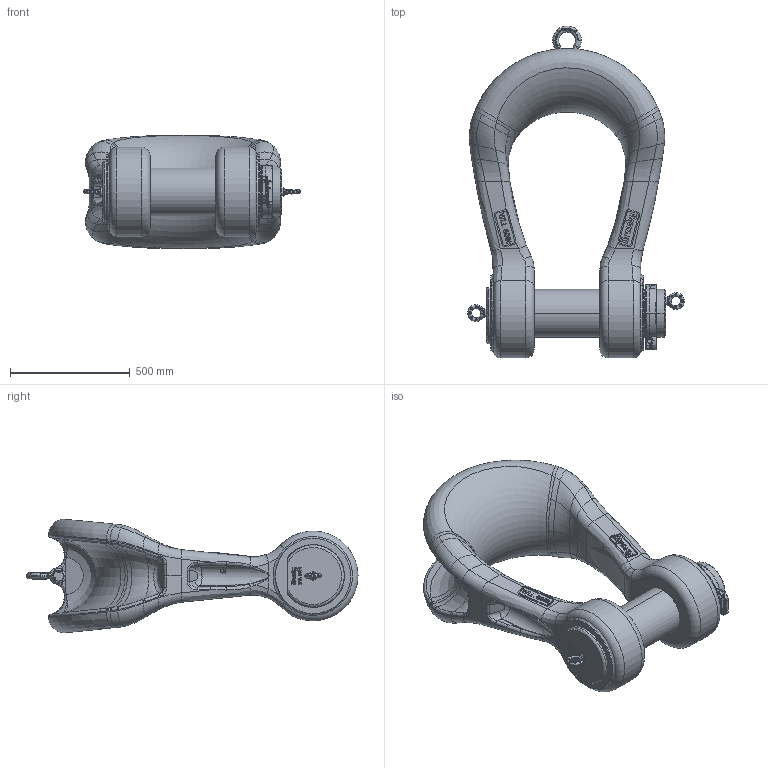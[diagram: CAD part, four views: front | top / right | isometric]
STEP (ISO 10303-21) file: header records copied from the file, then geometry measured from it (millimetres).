
FILE_DESCRIPTION((''),'2;1');
FILE_NAME('1021355_ASM','2024-09-04T11:40:17',('justin.lewis'),('The Crosby Group LLC'),'CREO PARAMETRIC BY PTC INC, 2021304','CREO PARAMETRIC BY PTC INC, 2021304','');
FILE_SCHEMA(('CONFIG_CONTROL_DESIGN','GEOMETRIC_VALIDATION_PROPERTIES_MIM'));
Length unit declared in the file: millimetre
Products named in the file (14): 0829-000600-D000-11; 0830-010600-D000-11; 1045995; 2038014; 3507862; 2038006; 2038004; 2038021_ASM; 5552812; 5552625; 88345; 46872; 1019560_ASM; 1021355_ASM
Assembly tree (17 placements, depth 3):
  1021355_ASM
    0829-000600-D000-11
    0830-010600-D000-11
    1045995  x2
    2038021_ASM
      2038014  x2
      3507862  x2
      2038006
      2038004  x2
    1019560_ASM
      5552812
      5552625
      88345
      46872
Bounding box: 904.97 x 1386.9 x 474.45 mm (x, y, z)
Volume: 124737523.4 mm3; surface area: 3664384.9 mm2
Topology: 15 solids, 22 shells, 4424 faces, 14708 edges, 11214 vertices
Faces by surface type: extrusion 1554, plane 1381, bspline 637, torus 313, cylinder 296, cone 164, sphere 40, revolution 39
Entity records: 274582 total; most frequent: CARTESIAN_POINT 140250, ORIENTED_EDGE 16286, PRESENTATION_STYLE_ASSIGNMENT 14939, STYLED_ITEM 14939, CURVE_STYLE 11814, DIRECTION 10790, EDGE_CURVE 8159, B_SPLINE_CURVE_WITH_KNOTS 6360
